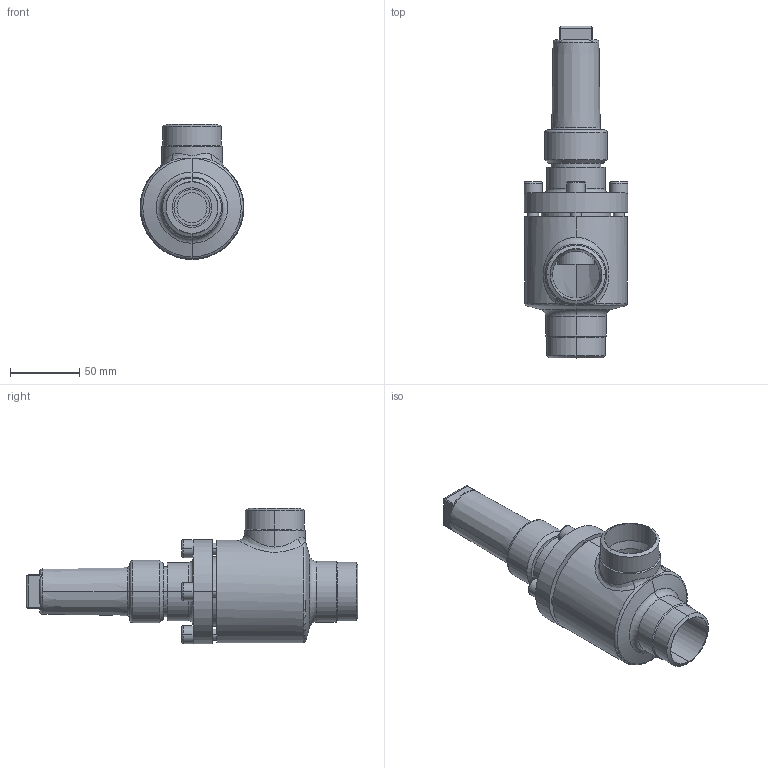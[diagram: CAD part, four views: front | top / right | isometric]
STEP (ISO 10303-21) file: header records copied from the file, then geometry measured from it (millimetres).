
FILE_DESCRIPTION (( 'STEP AP214' ), '1' );
FILE_NAME ('HRAB12400D13-DN032_R1_PS40.STEP', '2006-04-27T12:04:33', ( 'Herr Grams' ), ( 'AWP GmbH' ), 'SwSTEP 2.0', 'SolidWorks 2002296', '' );
FILE_SCHEMA (( 'AUTOMOTIVE_DESIGN' ));
Length unit declared in the file: millimetre
Products named in the file (6): HRAB12400D13-DN032_R1_PS40; AVB16300E13_Deck+Schr-DN25-32_Standard; Deckel16300E13-DN25-32_Standard; Zylinderschraube-DIN912_M 8x 25; Gehäuse16400-DN032_Standard; Kappe16402_DN010-32_Standard
Assembly tree (8 placements, depth 3):
  HRAB12400D13-DN032_R1_PS40
    Gehäuse16400-DN032_Standard
    Kappe16402_DN010-32_Standard
    AVB16300E13_Deck+Schr-DN25-32_Standard
      Zylinderschraube-DIN912_M 8x 25  x4
      Deckel16300E13-DN25-32_Standard
Bounding box: 75 x 239.5 x 97.5 mm (x, y, z)
Volume: 364929.4 mm3; surface area: 93753 mm2
Topology: 7 solids, 7 shells, 215 faces, 470 edges, 293 vertices
Faces by surface type: cylinder 86, plane 72, cone 32, torus 23, bspline 2
Entity records: 14966 total; most frequent: CARTESIAN_POINT 10674, DIRECTION 844, ORIENTED_EDGE 712, AXIS2_PLACEMENT_3D 357, EDGE_CURVE 356, VERTEX_POINT 221, EDGE_LOOP 191, CIRCLE 186
